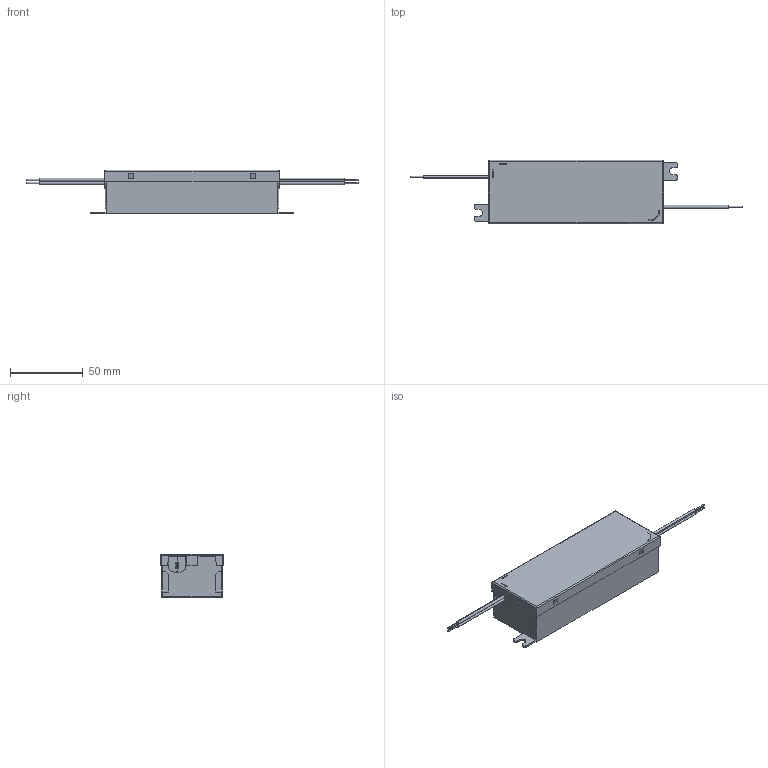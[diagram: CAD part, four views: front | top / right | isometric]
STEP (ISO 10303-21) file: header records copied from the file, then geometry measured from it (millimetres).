
FILE_DESCRIPTION (( 'STEP AP203' ), '1' );
FILE_NAME ('3D_USVI-060012FF.STEP', '2019-03-11T02:38:49', ( '' ), ( '' ), 'SwSTEP 2.0', 'SolidWorks 2016', '' );
FILE_SCHEMA (( 'CONFIG_CONTROL_DESIGN' ));
Length unit declared in the file: millimetre
Products named in the file (7): SR (2 Wires); Black wire; 3D_USVI-060012FF; COVER; Red wire; BASE; White wire
Assembly tree (8 placements, depth 2):
  3D_USVI-060012FF
    BASE
    COVER
    SR (2 Wires)  x2
    Black wire  x2
    White wire
    Red wire
Bounding box: 227.9 x 43.4 x 30 mm (x, y, z)
Volume: 14686.5 mm3; surface area: 45884 mm2
Topology: 8 solids, 8 shells, 320 faces, 871 edges, 566 vertices
Faces by surface type: plane 253, cylinder 67
Entity records: 9404 total; most frequent: CARTESIAN_POINT 1535, ORIENTED_EDGE 1502, DIRECTION 1417, EDGE_CURVE 751, VECTOR 649, LINE 649, VERTEX_POINT 486, AXIS2_PLACEMENT_3D 384
